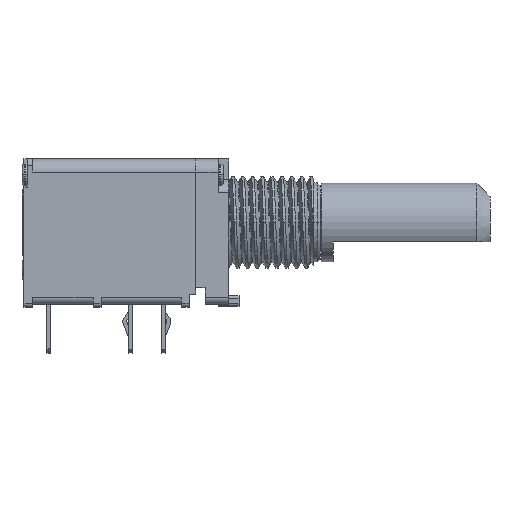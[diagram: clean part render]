
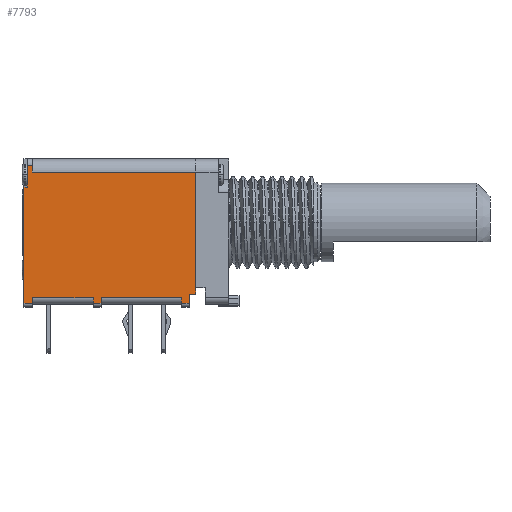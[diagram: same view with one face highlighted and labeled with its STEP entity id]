
A CAD part, left-side view. The second image highlights one B-rep face of the part: STEP entity #7793.
In plain terms, the highlighted planar face has unit normal (-1, 0, 0).
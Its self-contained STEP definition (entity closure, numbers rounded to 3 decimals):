
#94 = CARTESIAN_POINT ( 'NONE',  ( -4.75, 11.225, 0.75 ) ) ;
#177 = CARTESIAN_POINT ( 'NONE',  ( -4.75, 15., 0.75 ) ) ;
#184 = CARTESIAN_POINT ( 'NONE',  ( -4.75, 15., 10.35 ) ) ;
#188 = CARTESIAN_POINT ( 'NONE',  ( -4.75, 15., 10.85 ) ) ;
#189 = DIRECTION ( 'NONE',  ( 0., 0., 1. ) ) ;
#204 = DIRECTION ( 'NONE',  ( 0., 0., -1. ) ) ;
#205 = DIRECTION ( 'NONE',  ( 0., 0., 1. ) ) ;
#206 = DIRECTION ( 'NONE',  ( 0., -1., 0. ) ) ;
#213 = CARTESIAN_POINT ( 'NONE',  ( -4.75, 9.75, 0.75 ) ) ;
#215 = CARTESIAN_POINT ( 'NONE',  ( -4.75, 2.5, 0.3 ) ) ;
#216 = DIRECTION ( 'NONE',  ( 0., 1., 0. ) ) ;
#224 = DIRECTION ( 'NONE',  ( 0., 0., -1. ) ) ;
#227 = CARTESIAN_POINT ( 'NONE',  ( -4.75, 10.35, 0.3 ) ) ;
#234 = DIRECTION ( 'NONE',  ( 0., -1., 0. ) ) ;
#236 = CARTESIAN_POINT ( 'NONE',  ( -4.75, 2.5, 1. ) ) ;
#244 = CARTESIAN_POINT ( 'NONE',  ( -4.75, 9.72, 0.3 ) ) ;
#249 = DIRECTION ( 'NONE',  ( 0., -1., 0. ) ) ;
#252 = DIRECTION ( 'NONE',  ( 0., -1., 0. ) ) ;
#255 = DIRECTION ( 'NONE',  ( 0., 0., -1. ) ) ;
#263 = CARTESIAN_POINT ( 'NONE',  ( -4.75, 3.6, -1.074 ) ) ;
#277 = CARTESIAN_POINT ( 'NONE',  ( -4.75, 15., 10.85 ) ) ;
#278 = CARTESIAN_POINT ( 'NONE',  ( -4.75, 12.131, 9.2 ) ) ;
#285 = CARTESIAN_POINT ( 'NONE',  ( -4.75, 2.5, 1.5 ) ) ;
#288 = CARTESIAN_POINT ( 'NONE',  ( -4.75, 15.65, 10.85 ) ) ;
#294 = DIRECTION ( 'NONE',  ( 0., -1., 0. ) ) ;
#296 = DIRECTION ( 'NONE',  ( 0., 0., -1. ) ) ;
#298 = DIRECTION ( 'NONE',  ( 0., 0., -1. ) ) ;
#301 = CARTESIAN_POINT ( 'NONE',  ( -4.75, 15.65, 10.85 ) ) ;
#303 = DIRECTION ( 'NONE',  ( 0., 0., 1. ) ) ;
#307 = CARTESIAN_POINT ( 'NONE',  ( -4.75, 2.5, 11.35 ) ) ;
#309 = DIRECTION ( 'NONE',  ( 0., 0., 1. ) ) ;
#311 = DIRECTION ( 'NONE',  ( 0., -1., 0. ) ) ;
#317 = DIRECTION ( 'NONE',  ( 0., 1., 0. ) ) ;
#320 = DIRECTION ( 'NONE',  ( 0., 0., 1. ) ) ;
#321 = CARTESIAN_POINT ( 'NONE',  ( -4.75, 15.4, 9.2 ) ) ;
#323 = CARTESIAN_POINT ( 'NONE',  ( -4.75, 15.65, 0.3 ) ) ;
#334 = DIRECTION ( 'NONE',  ( 0., -1., 0. ) ) ;
#347 = CARTESIAN_POINT ( 'NONE',  ( -4.75, 3., 11.35 ) ) ;
#414 = CARTESIAN_POINT ( 'NONE',  ( -4.75, 15., 10.35 ) ) ;
#419 = CARTESIAN_POINT ( 'NONE',  ( -4.75, 2.5, 10.35 ) ) ;
#2521 = LINE ( 'NONE', #177, #2556 ) ;
#2526 = LINE ( 'NONE', #227, #2552 ) ;
#2527 = LINE ( 'NONE', #347, #2541 ) ;
#2539 = LINE ( 'NONE', #236, #2540 ) ;
#2540 = VECTOR ( 'NONE', #234, 1000. ) ;
#2541 = VECTOR ( 'NONE', #224, 1000. ) ;
#2542 = LINE ( 'NONE', #215, #2543 ) ;
#2543 = VECTOR ( 'NONE', #206, 1000. ) ;
#2544 = LINE ( 'NONE', #263, #2545 ) ;
#2545 = VECTOR ( 'NONE', #204, 1000. ) ;
#2546 = LINE ( 'NONE', #94, #2547 ) ;
#2547 = VECTOR ( 'NONE', #252, 1000. ) ;
#2548 = LINE ( 'NONE', #213, #2549 ) ;
#2549 = VECTOR ( 'NONE', #255, 1000. ) ;
#2550 = LINE ( 'NONE', #244, #2551 ) ;
#2551 = VECTOR ( 'NONE', #216, 1000. ) ;
#2552 = VECTOR ( 'NONE', #205, 1000. ) ;
#2553 = LINE ( 'NONE', #288, #2564 ) ;
#2556 = VECTOR ( 'NONE', #334, 1000. ) ;
#2557 = VECTOR ( 'NONE', #249, 1000. ) ;
#2558 = LINE ( 'NONE', #188, #2559 ) ;
#2559 = VECTOR ( 'NONE', #189, 1000. ) ;
#2562 = LINE ( 'NONE', #323, #2557 ) ;
#2563 = VECTOR ( 'NONE', #311, 1000. ) ;
#2564 = VECTOR ( 'NONE', #303, 1000. ) ;
#2566 = VECTOR ( 'NONE', #317, 1000. ) ;
#2567 = LINE ( 'NONE', #277, #2568 ) ;
#2568 = VECTOR ( 'NONE', #320, 1000. ) ;
#2569 = LINE ( 'NONE', #307, #2570 ) ;
#2570 = VECTOR ( 'NONE', #298, 1000. ) ;
#2571 = LINE ( 'NONE', #285, #2572 ) ;
#2572 = VECTOR ( 'NONE', #309, 1000. ) ;
#2573 = LINE ( 'NONE', #301, #2574 ) ;
#2574 = VECTOR ( 'NONE', #294, 1000. ) ;
#2575 = LINE ( 'NONE', #278, #2566 ) ;
#2576 = LINE ( 'NONE', #184, #2563 ) ;
#2579 = LINE ( 'NONE', #321, #2580 ) ;
#2580 = VECTOR ( 'NONE', #296, 1000. ) ;
#2955 = ORIENTED_EDGE ( 'NONE', *, *, #5264, .T. ) ;
#3138 = ORIENTED_EDGE ( 'NONE', *, *, #5268, .T. ) ;
#3225 = ORIENTED_EDGE ( 'NONE', *, *, #5280, .T. ) ;
#3285 = ORIENTED_EDGE ( 'NONE', *, *, #5279, .T. ) ;
#3458 = ORIENTED_EDGE ( 'NONE', *, *, #5275, .F. ) ;
#3462 = ORIENTED_EDGE ( 'NONE', *, *, #5271, .F. ) ;
#3507 = ORIENTED_EDGE ( 'NONE', *, *, #5265, .T. ) ;
#3642 = EDGE_LOOP ( 'NONE', ( #4106, #4099, #4137, #4092, #3458, #3225, #3285, #3462, #3138, #3507, #2955, #4104, #9540, #9536, #9526, #9528, #9524, #9537, #9523 ) ) ;
#4092 = ORIENTED_EDGE ( 'NONE', *, *, #5272, .T. ) ;
#4099 = ORIENTED_EDGE ( 'NONE', *, *, #5274, .T. ) ;
#4104 = ORIENTED_EDGE ( 'NONE', *, *, #5262, .F. ) ;
#4106 = ORIENTED_EDGE ( 'NONE', *, *, #5273, .F. ) ;
#4137 = ORIENTED_EDGE ( 'NONE', *, *, #5277, .F. ) ;
#5255 = EDGE_CURVE ( 'NONE', #7547, #7622, #2539, .T. ) ;
#5256 = EDGE_CURVE ( 'NONE', #7547, #7581, #2527, .T. ) ;
#5257 = EDGE_CURVE ( 'NONE', #7610, #7581, #2542, .T. ) ;
#5258 = EDGE_CURVE ( 'NONE', #7611, #7610, #2544, .T. ) ;
#5259 = EDGE_CURVE ( 'NONE', #7518, #7611, #2546, .T. ) ;
#5260 = EDGE_CURVE ( 'NONE', #7518, #7593, #2548, .T. ) ;
#5261 = EDGE_CURVE ( 'NONE', #7593, #7613, #2550, .T. ) ;
#5262 = EDGE_CURVE ( 'NONE', #7613, #7615, #2526, .T. ) ;
#5264 = EDGE_CURVE ( 'NONE', #7539, #7615, #2521, .T. ) ;
#5265 = EDGE_CURVE ( 'NONE', #7542, #7539, #2558, .T. ) ;
#5268 = EDGE_CURVE ( 'NONE', #7621, #7542, #2562, .T. ) ;
#5271 = EDGE_CURVE ( 'NONE', #7621, #7627, #2553, .T. ) ;
#5272 = EDGE_CURVE ( 'NONE', #7239, #7626, #2567, .T. ) ;
#5273 = EDGE_CURVE ( 'NONE', #7625, #7622, #2569, .T. ) ;
#5274 = EDGE_CURVE ( 'NONE', #7625, #7234, #2571, .T. ) ;
#5275 = EDGE_CURVE ( 'NONE', #7629, #7626, #2573, .T. ) ;
#5277 = EDGE_CURVE ( 'NONE', #7239, #7234, #2576, .T. ) ;
#5279 = EDGE_CURVE ( 'NONE', #7628, #7627, #2575, .T. ) ;
#5280 = EDGE_CURVE ( 'NONE', #7629, #7628, #2579, .T. ) ;
#5768 = AXIS2_PLACEMENT_3D ( 'NONE', #10934, #10944, #10945 ) ;
#7234 = VERTEX_POINT ( 'NONE', #419 ) ;
#7239 = VERTEX_POINT ( 'NONE', #414 ) ;
#7518 = VERTEX_POINT ( 'NONE', #8395 ) ;
#7539 = VERTEX_POINT ( 'NONE', #8410 ) ;
#7542 = VERTEX_POINT ( 'NONE', #8413 ) ;
#7547 = VERTEX_POINT ( 'NONE', #8418 ) ;
#7581 = VERTEX_POINT ( 'NONE', #8445 ) ;
#7593 = VERTEX_POINT ( 'NONE', #8455 ) ;
#7610 = VERTEX_POINT ( 'NONE', #8471 ) ;
#7611 = VERTEX_POINT ( 'NONE', #8472 ) ;
#7613 = VERTEX_POINT ( 'NONE', #8474 ) ;
#7615 = VERTEX_POINT ( 'NONE', #8476 ) ;
#7621 = VERTEX_POINT ( 'NONE', #8481 ) ;
#7622 = VERTEX_POINT ( 'NONE', #8482 ) ;
#7625 = VERTEX_POINT ( 'NONE', #8485 ) ;
#7626 = VERTEX_POINT ( 'NONE', #8486 ) ;
#7627 = VERTEX_POINT ( 'NONE', #8487 ) ;
#7628 = VERTEX_POINT ( 'NONE', #8488 ) ;
#7629 = VERTEX_POINT ( 'NONE', #8489 ) ;
#7793 = ADVANCED_FACE ( 'NONE', ( #9988 ), #10935, .T. ) ;
#8395 = CARTESIAN_POINT ( 'NONE',  ( -4.75, 9.75, 0.75 ) ) ;
#8410 = CARTESIAN_POINT ( 'NONE',  ( -4.75, 15., 0.75 ) ) ;
#8413 = CARTESIAN_POINT ( 'NONE',  ( -4.75, 15., 0.3 ) ) ;
#8418 = CARTESIAN_POINT ( 'NONE',  ( -4.75, 3., 1. ) ) ;
#8445 = CARTESIAN_POINT ( 'NONE',  ( -4.75, 3., 0.3 ) ) ;
#8455 = CARTESIAN_POINT ( 'NONE',  ( -4.75, 9.75, 0.3 ) ) ;
#8471 = CARTESIAN_POINT ( 'NONE',  ( -4.75, 3.6, 0.3 ) ) ;
#8472 = CARTESIAN_POINT ( 'NONE',  ( -4.75, 3.6, 0.75 ) ) ;
#8474 = CARTESIAN_POINT ( 'NONE',  ( -4.75, 10.35, 0.3 ) ) ;
#8476 = CARTESIAN_POINT ( 'NONE',  ( -4.75, 10.35, 0.75 ) ) ;
#8481 = CARTESIAN_POINT ( 'NONE',  ( -4.75, 15.65, 0.3 ) ) ;
#8482 = CARTESIAN_POINT ( 'NONE',  ( -4.75, 2.5, 1. ) ) ;
#8485 = CARTESIAN_POINT ( 'NONE',  ( -4.75, 2.5, 1.5 ) ) ;
#8486 = CARTESIAN_POINT ( 'NONE',  ( -4.75, 15., 10.85 ) ) ;
#8487 = CARTESIAN_POINT ( 'NONE',  ( -4.75, 15.65, 9.2 ) ) ;
#8488 = CARTESIAN_POINT ( 'NONE',  ( -4.75, 15.4, 9.2 ) ) ;
#8489 = CARTESIAN_POINT ( 'NONE',  ( -4.75, 15.4, 10.85 ) ) ;
#9523 = ORIENTED_EDGE ( 'NONE', *, *, #5255, .T. ) ;
#9524 = ORIENTED_EDGE ( 'NONE', *, *, #5257, .T. ) ;
#9526 = ORIENTED_EDGE ( 'NONE', *, *, #5259, .T. ) ;
#9528 = ORIENTED_EDGE ( 'NONE', *, *, #5258, .T. ) ;
#9536 = ORIENTED_EDGE ( 'NONE', *, *, #5260, .F. ) ;
#9537 = ORIENTED_EDGE ( 'NONE', *, *, #5256, .F. ) ;
#9540 = ORIENTED_EDGE ( 'NONE', *, *, #5261, .F. ) ;
#9988 = FACE_OUTER_BOUND ( 'NONE', #3642, .T. ) ;
#10934 = CARTESIAN_POINT ( 'NONE',  ( -4.75, -6.835, 1.5 ) ) ;
#10935 = PLANE ( 'NONE',  #5768 ) ;
#10944 = DIRECTION ( 'NONE',  ( -1., 0., 0. ) ) ;
#10945 = DIRECTION ( 'NONE',  ( 0., 0., -1. ) ) ;
